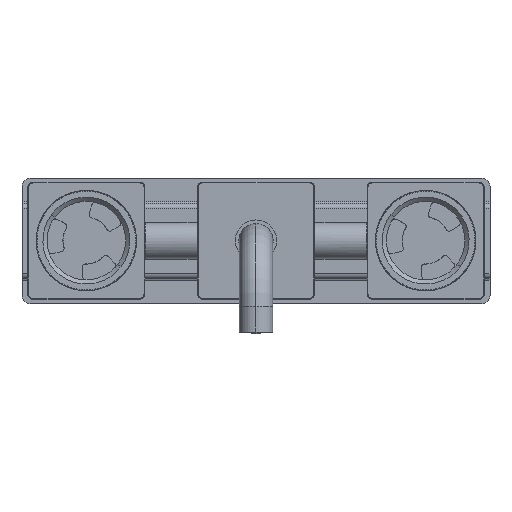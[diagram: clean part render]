
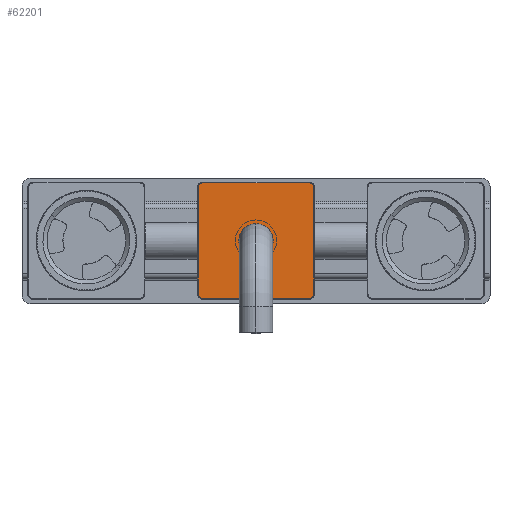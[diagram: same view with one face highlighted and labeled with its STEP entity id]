
A CAD part, top view. The second image highlights one B-rep face of the part: STEP entity #62201.
In plain terms, the highlighted planar face has unit normal (0, 0, 1) as drawn and (0, 0, -1) by its records, which use the part's own axes.
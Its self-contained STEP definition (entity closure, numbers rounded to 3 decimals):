
#306 = CARTESIAN_POINT ( 'NONE',  ( 32., -32., 0. ) ) ;
#633 = ORIENTED_EDGE ( 'NONE', *, *, #17732, .T. ) ;
#2562 = VERTEX_POINT ( 'NONE', #38253 ) ;
#3575 = EDGE_LOOP ( 'NONE', ( #26046, #633 ) ) ;
#5136 = CARTESIAN_POINT ( 'NONE',  ( 0., 0., 0. ) ) ;
#7371 = VERTEX_POINT ( 'NONE', #55903 ) ;
#9444 = ORIENTED_EDGE ( 'NONE', *, *, #76051, .F. ) ;
#9667 = CARTESIAN_POINT ( 'NONE',  ( -34.5, -32., 0. ) ) ;
#10227 = CARTESIAN_POINT ( 'NONE',  ( -32., 32., 0. ) ) ;
#11084 = AXIS2_PLACEMENT_3D ( 'NONE', #32011, #38174, #54005 ) ;
#11392 = AXIS2_PLACEMENT_3D ( 'NONE', #56883, #22220, #63456 ) ;
#11505 = CARTESIAN_POINT ( 'NONE',  ( 34.5, -32., 0. ) ) ;
#11744 = VERTEX_POINT ( 'NONE', #65835 ) ;
#15576 = ORIENTED_EDGE ( 'NONE', *, *, #38056, .F. ) ;
#15876 = ORIENTED_EDGE ( 'NONE', *, *, #33780, .T. ) ;
#16377 = ORIENTED_EDGE ( 'NONE', *, *, #23493, .T. ) ;
#16730 = AXIS2_PLACEMENT_3D ( 'NONE', #5136, #64106, #69905 ) ;
#17441 = VECTOR ( 'NONE', #23135, 1000. ) ;
#17732 = EDGE_CURVE ( 'NONE', #58027, #51297, #24090, .T. ) ;
#18118 = CARTESIAN_POINT ( 'NONE',  ( -35., -34.5, 0. ) ) ;
#18252 = FACE_OUTER_BOUND ( 'NONE', #38858, .T. ) ;
#20300 = DIRECTION ( 'NONE',  ( 0., -1., 0. ) ) ;
#22220 = DIRECTION ( 'NONE',  ( 0., 0., 1. ) ) ;
#22904 = CIRCLE ( 'NONE', #53777, 2.5 ) ;
#23135 = DIRECTION ( 'NONE',  ( 1., 0., 0. ) ) ;
#23493 = EDGE_CURVE ( 'NONE', #71826, #61001, #37508, .T. ) ;
#24090 = CIRCLE ( 'NONE', #16730, 10.25 ) ;
#24138 = VERTEX_POINT ( 'NONE', #58675 ) ;
#26046 = ORIENTED_EDGE ( 'NONE', *, *, #50506, .T. ) ;
#27974 = DIRECTION ( 'NONE',  ( 0., 0., 1. ) ) ;
#28366 = VERTEX_POINT ( 'NONE', #68450 ) ;
#28881 = DIRECTION ( 'NONE',  ( -1., 0., 0. ) ) ;
#29105 = CARTESIAN_POINT ( 'NONE',  ( -32., -32., 0. ) ) ;
#29407 = FACE_BOUND ( 'NONE', #3575, .T. ) ;
#32011 = CARTESIAN_POINT ( 'NONE',  ( 0., 0., 0. ) ) ;
#32014 = ORIENTED_EDGE ( 'NONE', *, *, #54030, .F. ) ;
#33780 = EDGE_CURVE ( 'NONE', #2562, #7371, #39702, .T. ) ;
#35176 = DIRECTION ( 'NONE',  ( 0., 0., 1. ) ) ;
#35308 = EDGE_CURVE ( 'NONE', #28366, #63796, #55340, .T. ) ;
#35988 = CARTESIAN_POINT ( 'NONE',  ( -34.5, 35., 0. ) ) ;
#37315 = AXIS2_PLACEMENT_3D ( 'NONE', #306, #52341, #51577 ) ;
#37508 = LINE ( 'NONE', #35988, #45530 ) ;
#37595 = VECTOR ( 'NONE', #28881, 1000. ) ;
#38056 = EDGE_CURVE ( 'NONE', #71826, #11744, #22904, .T. ) ;
#38174 = DIRECTION ( 'NONE',  ( 0., 0., 1. ) ) ;
#38253 = CARTESIAN_POINT ( 'NONE',  ( -32., 34.5, 0. ) ) ;
#38858 = EDGE_LOOP ( 'NONE', ( #32014, #61888, #15576, #16377, #69519, #15876, #9444, #75334 ) ) ;
#39155 = DIRECTION ( 'NONE',  ( 1., 0., 0. ) ) ;
#39410 = CIRCLE ( 'NONE', #11084, 10.25 ) ;
#39702 = LINE ( 'NONE', #75940, #17441 ) ;
#42555 = DIRECTION ( 'NONE',  ( 0., 1., 0. ) ) ;
#44616 = CIRCLE ( 'NONE', #11392, 2.5 ) ;
#45530 = VECTOR ( 'NONE', #42555, 1000. ) ;
#50506 = EDGE_CURVE ( 'NONE', #51297, #58027, #39410, .T. ) ;
#51297 = VERTEX_POINT ( 'NONE', #65690 ) ;
#51577 = DIRECTION ( 'NONE',  ( 1., 0., 0. ) ) ;
#52341 = DIRECTION ( 'NONE',  ( 0., 0., 1. ) ) ;
#52782 = LINE ( 'NONE', #18118, #37595 ) ;
#53281 = DIRECTION ( 'NONE',  ( 1., 0., 0. ) ) ;
#53777 = AXIS2_PLACEMENT_3D ( 'NONE', #29105, #69976, #64958 ) ;
#54005 = DIRECTION ( 'NONE',  ( 1., 0., 0. ) ) ;
#54030 = EDGE_CURVE ( 'NONE', #24138, #63796, #66889, .T. ) ;
#54055 = CARTESIAN_POINT ( 'NONE',  ( 0., 0., 0. ) ) ;
#55181 = CARTESIAN_POINT ( 'NONE',  ( -34.5, 32., 0. ) ) ;
#55340 = LINE ( 'NONE', #73090, #64204 ) ;
#55903 = CARTESIAN_POINT ( 'NONE',  ( 32., 34.5, 0. ) ) ;
#56883 = CARTESIAN_POINT ( 'NONE',  ( 32., 32., 0. ) ) ;
#58027 = VERTEX_POINT ( 'NONE', #59310 ) ;
#58178 = EDGE_CURVE ( 'NONE', #24138, #11744, #52782, .T. ) ;
#58675 = CARTESIAN_POINT ( 'NONE',  ( 32., -34.5, 0. ) ) ;
#59310 = CARTESIAN_POINT ( 'NONE',  ( -10.25, 0., 0. ) ) ;
#60037 = EDGE_CURVE ( 'NONE', #2562, #61001, #75941, .T. ) ;
#61001 = VERTEX_POINT ( 'NONE', #55181 ) ;
#61888 = ORIENTED_EDGE ( 'NONE', *, *, #58178, .T. ) ;
#62201 = ADVANCED_FACE ( 'NONE', ( #29407, #18252 ), #64483, .F. ) ;
#62587 = AXIS2_PLACEMENT_3D ( 'NONE', #54055, #35176, #53281 ) ;
#63456 = DIRECTION ( 'NONE',  ( 1., 0., 0. ) ) ;
#63796 = VERTEX_POINT ( 'NONE', #11505 ) ;
#64106 = DIRECTION ( 'NONE',  ( 0., 0., 1. ) ) ;
#64204 = VECTOR ( 'NONE', #20300, 1000. ) ;
#64483 = PLANE ( 'NONE',  #62587 ) ;
#64958 = DIRECTION ( 'NONE',  ( 1., 0., 0. ) ) ;
#65690 = CARTESIAN_POINT ( 'NONE',  ( 10.25, 0., 0. ) ) ;
#65835 = CARTESIAN_POINT ( 'NONE',  ( -32., -34.5, 0. ) ) ;
#66889 = CIRCLE ( 'NONE', #37315, 2.5 ) ;
#67380 = AXIS2_PLACEMENT_3D ( 'NONE', #10227, #27974, #39155 ) ;
#68450 = CARTESIAN_POINT ( 'NONE',  ( 34.5, 32., 0. ) ) ;
#69519 = ORIENTED_EDGE ( 'NONE', *, *, #60037, .F. ) ;
#69905 = DIRECTION ( 'NONE',  ( 1., 0., 0. ) ) ;
#69976 = DIRECTION ( 'NONE',  ( 0., 0., 1. ) ) ;
#71826 = VERTEX_POINT ( 'NONE', #9667 ) ;
#73090 = CARTESIAN_POINT ( 'NONE',  ( 34.5, -35., 0. ) ) ;
#75334 = ORIENTED_EDGE ( 'NONE', *, *, #35308, .T. ) ;
#75940 = CARTESIAN_POINT ( 'NONE',  ( 35., 34.5, 0. ) ) ;
#75941 = CIRCLE ( 'NONE', #67380, 2.5 ) ;
#76051 = EDGE_CURVE ( 'NONE', #28366, #7371, #44616, .T. ) ;
